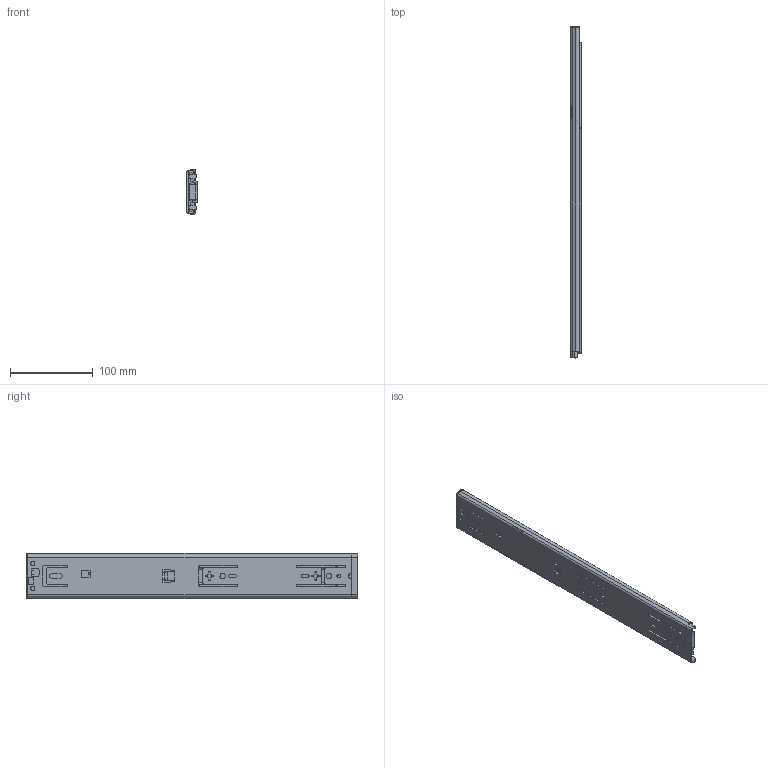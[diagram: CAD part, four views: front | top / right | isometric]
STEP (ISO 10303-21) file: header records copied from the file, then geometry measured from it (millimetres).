
FILE_DESCRIPTION( ( 'Unknown' ), '1' );
FILE_NAME( 'C:/Users/rd30/Desktop/85A01-400-Close.stp', 'Unknown', ( 'Unknown' ), ( 'Unknown' ), 'PSStep 14.0', 'Unknown', ' ' );
FILE_SCHEMA( ( 'AUTOMOTIVE_DESIGN { 1 0 10303 214 1 1 1 1 }' ) );
Length unit declared in the file: millimetre
Products named in the file (8): P10-366-3-1; P10-367-130429; 本體(卡式)20130423-\X2\4FEE6A21571\X0\; Assem1; 85A01P11-02-400; 85A01P21-03-400; 85A01P30-04-400; 85A01P30-04-B
Assembly tree (7 placements, depth 3):
  Assem1
    85A01P11-02-400
    85A01P21-03-400
    85A01P30-04-400
    85A01P30-04-B
    P10-366-3-1
      P10-367-130429
      本體(卡式)20130423-\X2\4FEE6A21571\X0\
Bounding box: 12.6 x 400 x 55.37 mm (x, y, z)
Volume: 151774.1 mm3; surface area: 127149.6 mm2
Topology: 6 solids, 6 shells, 610 faces, 1740 edges, 1140 vertices
Faces by surface type: plane 300, cylinder 258, cone 24, torus 24, bspline 2, sphere 2
Full cylindrical faces by diameter (mm): 1.4 x1, 3 x1, 3.2 x1, 4.6 x1, 5 x4, 5.1 x1, 5.5 x1, 6.25 x1, 6.4 x2
Entity records: 25308 total; most frequent: CARTESIAN_POINT 3817, DIRECTION 3454, ORIENTED_EDGE 3422, EDGE_CURVE 1711, AXIS2_PLACEMENT_3D 1194, VERTEX_POINT 1129, LINE 1066, VECTOR 1066
